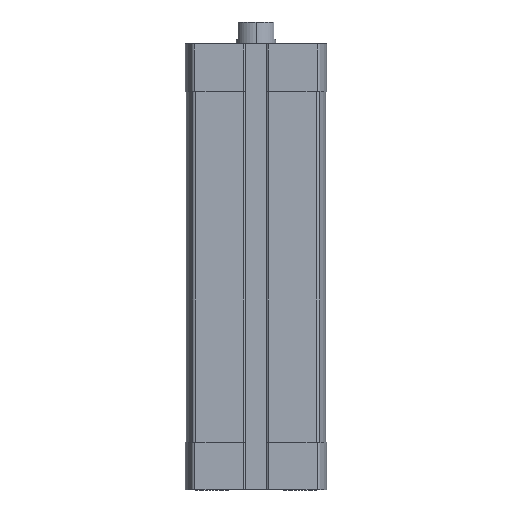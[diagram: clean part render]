
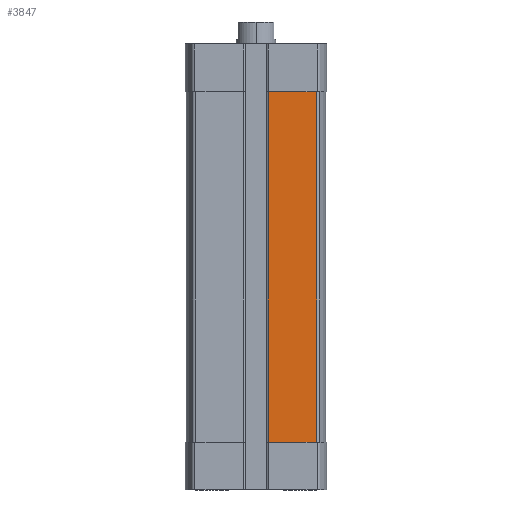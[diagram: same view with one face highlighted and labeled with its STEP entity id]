
A CAD part, left-side view. The second image highlights one B-rep face of the part: STEP entity #3847.
In plain terms, the highlighted planar face has unit normal (-1, 0, 0).
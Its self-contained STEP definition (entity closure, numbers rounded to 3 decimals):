
#122 = DIRECTION ( 'NONE',  ( 0., -1., 0. ) ) ;
#428 = PLANE ( 'NONE',  #6808 ) ;
#598 = CARTESIAN_POINT ( 'NONE',  ( -17.5, 0., -12. ) ) ;
#1323 = ORIENTED_EDGE ( 'NONE', *, *, #12406, .T. ) ;
#1329 = DIRECTION ( 'NONE',  ( 0., 0., 1. ) ) ;
#1423 = ORIENTED_EDGE ( 'NONE', *, *, #9363, .T. ) ;
#1443 = CARTESIAN_POINT ( 'NONE',  ( -17.5, -3.1, -100. ) ) ;
#1848 = CARTESIAN_POINT ( 'NONE',  ( -17.5, -15.253, -100. ) ) ;
#2320 = CARTESIAN_POINT ( 'NONE',  ( -17.5, -3.1, -100. ) ) ;
#3502 = DIRECTION ( 'NONE',  ( 0., 0., 1. ) ) ;
#3847 = ADVANCED_FACE ( 'NONE', ( #8023 ), #428, .T. ) ;
#3849 = VECTOR ( 'NONE', #7730, 1000. ) ;
#4063 = VERTEX_POINT ( 'NONE', #1848 ) ;
#6497 = DIRECTION ( 'NONE',  ( 0., 0., 1. ) ) ;
#6514 = VERTEX_POINT ( 'NONE', #2320 ) ;
#6808 = AXIS2_PLACEMENT_3D ( 'NONE', #1443, #9598, #3502 ) ;
#7422 = CARTESIAN_POINT ( 'NONE',  ( -17.5, -15.253, -100. ) ) ;
#7671 = VECTOR ( 'NONE', #6497, 1000. ) ;
#7730 = DIRECTION ( 'NONE',  ( 0., 1., 0. ) ) ;
#7976 = ORIENTED_EDGE ( 'NONE', *, *, #11082, .T. ) ;
#8023 = FACE_OUTER_BOUND ( 'NONE', #12194, .T. ) ;
#8199 = VECTOR ( 'NONE', #1329, 1000. ) ;
#8502 = CARTESIAN_POINT ( 'NONE',  ( -17.5, -3.1, -12. ) ) ;
#9363 = EDGE_CURVE ( 'NONE', #4063, #10493, #10890, .T. ) ;
#9364 = ORIENTED_EDGE ( 'NONE', *, *, #11159, .F. ) ;
#9387 = VERTEX_POINT ( 'NONE', #8502 ) ;
#9598 = DIRECTION ( 'NONE',  ( -1., 0., 0. ) ) ;
#10493 = VERTEX_POINT ( 'NONE', #11271 ) ;
#10890 = LINE ( 'NONE', #7422, #8199 ) ;
#10995 = VECTOR ( 'NONE', #122, 1000. ) ;
#11082 = EDGE_CURVE ( 'NONE', #6514, #4063, #11299, .T. ) ;
#11159 = EDGE_CURVE ( 'NONE', #6514, #9387, #13052, .T. ) ;
#11271 = CARTESIAN_POINT ( 'NONE',  ( -17.5, -15.253, -12. ) ) ;
#11299 = LINE ( 'NONE', #12265, #10995 ) ;
#11604 = LINE ( 'NONE', #598, #3849 ) ;
#12194 = EDGE_LOOP ( 'NONE', ( #7976, #1423, #1323, #9364 ) ) ;
#12265 = CARTESIAN_POINT ( 'NONE',  ( -17.5, -3.1, -100. ) ) ;
#12406 = EDGE_CURVE ( 'NONE', #10493, #9387, #11604, .T. ) ;
#12572 = CARTESIAN_POINT ( 'NONE',  ( -17.5, -3.1, -100. ) ) ;
#13052 = LINE ( 'NONE', #12572, #7671 ) ;
